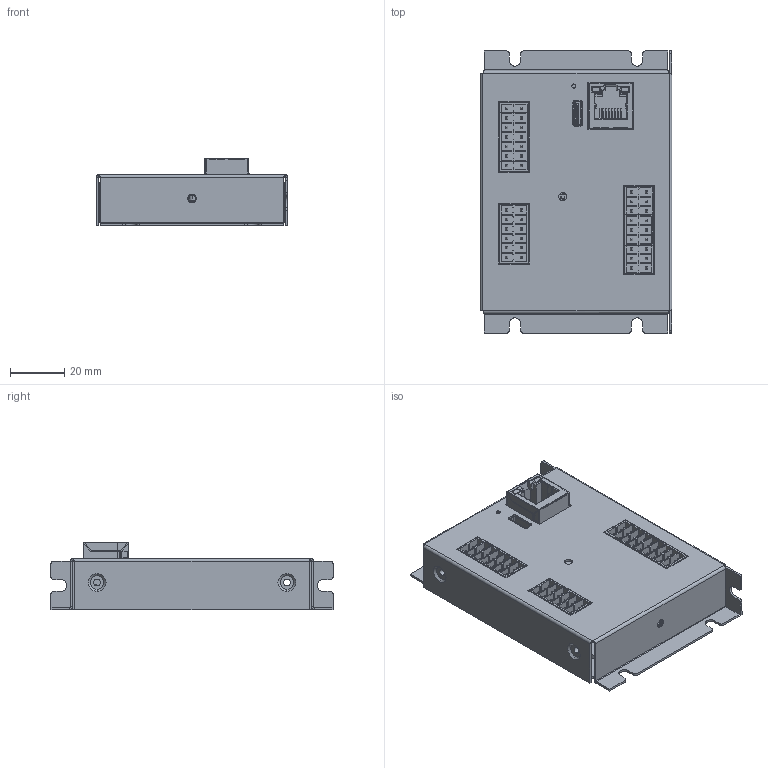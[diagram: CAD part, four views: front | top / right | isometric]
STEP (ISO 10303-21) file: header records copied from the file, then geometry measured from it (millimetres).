
FILE_DESCRIPTION (( 'STEP AP203' ), '1' );
FILE_NAME ('VM4000Mini.STEP', '2026-05-24T04:08:09', ( '' ), ( '' ), 'SwSTEP 2.0', 'SolidWorks 2023', '' );
FILE_SCHEMA (( 'CONFIG_CONTROL_DESIGN' ));
Length unit declared in the file: millimetre
Products named in the file (18): 底座; KF2EDGSV-3.5-2-6; led0805__green; CN1~CONN-TH_12P-P3.50_KEFA_KF2EDGSV-3.5-2X6P~CONN-TH_12P-P3.50_KEFA_KF2EDGSV-3.5-2X6P~9qys_1.step; 电路板; MC-802YC-H105; P1; P3; P2; P5; HY951180A; D12; 小驱动器; 上盖; Board; VM4000Mini; P4; CONN-TH_12P-P3.50_KEFA_KF2EDGSV-3.5-2X6P~CONN-TH_12P-P3.50_KEFA_KF2EDGSV-3.5-2X6P~gawh_1.step
Assembly tree (21 placements, depth 7):
  VM4000Mini
    底座
    上盖
    电路板
      小驱动器
        P3
          MC-802YC-H105
        P1
          HY951180A
        P4
          KF2EDGSV-3.5-2-6
            CN1~CONN-TH_12P-P3.50_KEFA_KF2EDGSV-3.5-2X6P~CONN-TH_12P-P3.50_KEFA_KF2EDGSV-3.5-2X6P~9qys_1.step
              CONN-TH_12P-P3.50_KEFA_KF2EDGSV-3.5-2X6P~CONN-TH_12P-P3.50_KEFA_KF2EDGSV-3.5-2X6P~gawh_1.step
        P5
          KF2EDGSV-3.5-2-6  x2
            CN1~CONN-TH_12P-P3.50_KEFA_KF2EDGSV-3.5-2X6P~CONN-TH_12P-P3.50_KEFA_KF2EDGSV-3.5-2X6P~9qys_1.step
              CONN-TH_12P-P3.50_KEFA_KF2EDGSV-3.5-2X6P~CONN-TH_12P-P3.50_KEFA_KF2EDGSV-3.5-2X6P~gawh_1.step
        P2
          KF2EDGSV-3.5-2-6  x2
            CN1~CONN-TH_12P-P3.50_KEFA_KF2EDGSV-3.5-2X6P~CONN-TH_12P-P3.50_KEFA_KF2EDGSV-3.5-2X6P~9qys_1.step
              CONN-TH_12P-P3.50_KEFA_KF2EDGSV-3.5-2X6P~CONN-TH_12P-P3.50_KEFA_KF2EDGSV-3.5-2X6P~gawh_1.step
        D12
          led0805__green
        Board
Bounding box: 70.6 x 104 x 24.8 mm (x, y, z)
Volume: 35913.2 mm3; surface area: 75182.7 mm2
Topology: 14 solids, 14 shells, 4679 faces, 12013 edges, 7740 vertices
Faces by surface type: plane 3344, bspline 677, cylinder 589, cone 47, sphere 16, torus 6
Entity records: 82048 total; most frequent: CARTESIAN_POINT 18446, ORIENTED_EDGE 13242, DIRECTION 11667, EDGE_CURVE 6621, LINE 4951, VECTOR 4951, VERTEX_POINT 4292, AXIS2_PLACEMENT_3D 3358
